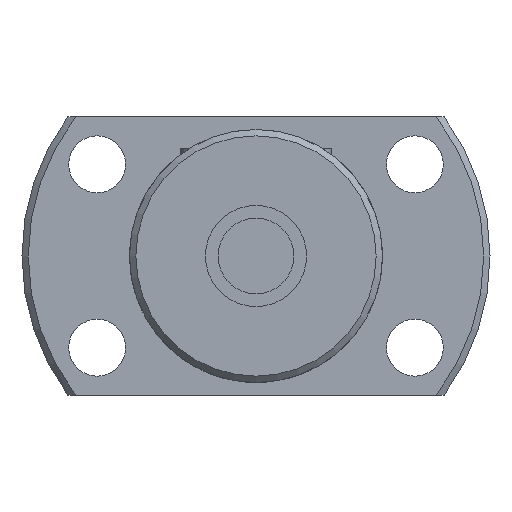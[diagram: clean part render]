
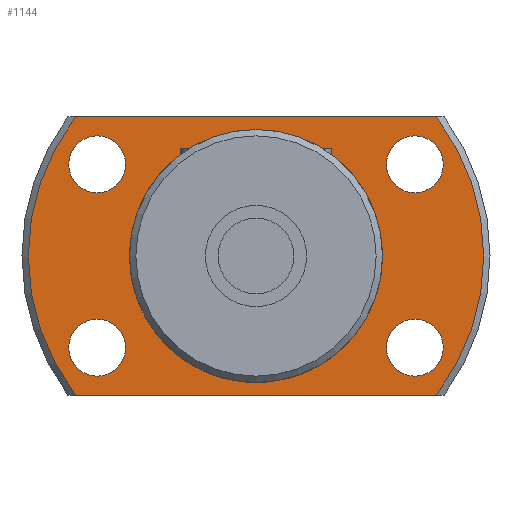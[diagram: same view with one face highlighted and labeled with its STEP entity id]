
A CAD part, left-side view. The second image highlights one B-rep face of the part: STEP entity #1144.
In plain terms, the highlighted planar face has unit normal (-1, 0, 0) as drawn and (1, 0, 0) by its records, which use the part's own axes.
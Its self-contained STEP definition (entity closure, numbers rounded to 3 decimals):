
#123=LINE('',#1986,#191);
#124=LINE('',#1988,#192);
#191=VECTOR('',#1603,1000.);
#192=VECTOR('',#1604,1000.);
#372=ORIENTED_EDGE('',*,*,#622,.T.);
#373=ORIENTED_EDGE('',*,*,#604,.T.);
#374=ORIENTED_EDGE('',*,*,#623,.T.);
#375=ORIENTED_EDGE('',*,*,#624,.T.);
#376=ORIENTED_EDGE('',*,*,#625,.F.);
#377=ORIENTED_EDGE('',*,*,#626,.F.);
#378=ORIENTED_EDGE('',*,*,#627,.F.);
#379=ORIENTED_EDGE('',*,*,#628,.F.);
#380=ORIENTED_EDGE('',*,*,#597,.F.);
#597=EDGE_CURVE('',#731,#731,#813,.T.);
#604=EDGE_CURVE('',#735,#737,#816,.T.);
#622=EDGE_CURVE('',#753,#735,#123,.T.);
#623=EDGE_CURVE('',#737,#754,#124,.T.);
#624=EDGE_CURVE('',#754,#753,#828,.T.);
#625=EDGE_CURVE('',#755,#755,#829,.T.);
#626=EDGE_CURVE('',#756,#756,#830,.T.);
#627=EDGE_CURVE('',#757,#757,#831,.T.);
#628=EDGE_CURVE('',#758,#758,#832,.T.);
#731=VERTEX_POINT('',#1920);
#735=VERTEX_POINT('',#1932);
#737=VERTEX_POINT('',#1939);
#753=VERTEX_POINT('',#1987);
#754=VERTEX_POINT('',#1989);
#755=VERTEX_POINT('',#1992);
#756=VERTEX_POINT('',#1994);
#757=VERTEX_POINT('',#1996);
#758=VERTEX_POINT('',#1998);
#813=CIRCLE('',#1281,9.8);
#816=CIRCLE('',#1285,18.);
#828=CIRCLE('',#1304,18.);
#829=CIRCLE('',#1305,2.25);
#830=CIRCLE('',#1306,2.25);
#831=CIRCLE('',#1307,2.25);
#832=CIRCLE('',#1308,2.25);
#912=EDGE_LOOP('',(#372,#373,#374,#375));
#913=EDGE_LOOP('',(#376));
#914=EDGE_LOOP('',(#377));
#915=EDGE_LOOP('',(#378));
#916=EDGE_LOOP('',(#379));
#917=EDGE_LOOP('',(#380));
#1024=FACE_BOUND('',#912,.T.);
#1025=FACE_BOUND('',#913,.T.);
#1026=FACE_BOUND('',#914,.T.);
#1027=FACE_BOUND('',#915,.T.);
#1028=FACE_BOUND('',#916,.T.);
#1029=FACE_BOUND('',#917,.T.);
#1084=PLANE('',#1303);
#1144=ADVANCED_FACE('',(#1024,#1025,#1026,#1027,#1028,#1029),#1084,.T.);
#1281=AXIS2_PLACEMENT_3D('',#1919,#1551,#1552);
#1285=AXIS2_PLACEMENT_3D('',#1940,#1561,#1562);
#1303=AXIS2_PLACEMENT_3D('',#1985,#1601,#1602);
#1304=AXIS2_PLACEMENT_3D('',#1990,#1605,#1606);
#1305=AXIS2_PLACEMENT_3D('',#1991,#1607,#1608);
#1306=AXIS2_PLACEMENT_3D('',#1993,#1609,#1610);
#1307=AXIS2_PLACEMENT_3D('',#1995,#1611,#1612);
#1308=AXIS2_PLACEMENT_3D('',#1997,#1613,#1614);
#1551=DIRECTION('',(1.,0.,0.));
#1552=DIRECTION('',(0.,0.,-1.));
#1561=DIRECTION('',(1.,0.,0.));
#1562=DIRECTION('',(0.,0.,-1.));
#1601=DIRECTION('',(1.,0.,0.));
#1602=DIRECTION('',(0.,0.,-1.));
#1603=DIRECTION('',(0.,-1.,0.));
#1604=DIRECTION('',(0.,1.,0.));
#1605=DIRECTION('',(1.,0.,0.));
#1606=DIRECTION('',(0.,0.,-1.));
#1607=DIRECTION('',(1.,0.,0.));
#1608=DIRECTION('',(0.,0.,-1.));
#1609=DIRECTION('',(1.,0.,0.));
#1610=DIRECTION('',(0.,0.,-1.));
#1611=DIRECTION('',(1.,0.,0.));
#1612=DIRECTION('',(0.,0.,-1.));
#1613=DIRECTION('',(1.,0.,0.));
#1614=DIRECTION('',(0.,0.,-1.));
#1919=CARTESIAN_POINT('',(5.,0.,0.));
#1920=CARTESIAN_POINT('',(5.,0.,-9.8));
#1932=CARTESIAN_POINT('',(5.,-14.248,11.));
#1939=CARTESIAN_POINT('',(5.,-14.248,-11.));
#1940=CARTESIAN_POINT('',(5.,0.,0.));
#1985=CARTESIAN_POINT('',(5.,9.8,0.));
#1986=CARTESIAN_POINT('',(5.,18.5,11.));
#1987=CARTESIAN_POINT('',(5.,14.248,11.));
#1988=CARTESIAN_POINT('',(5.,-18.5,-11.));
#1989=CARTESIAN_POINT('',(5.,14.248,-11.));
#1990=CARTESIAN_POINT('',(5.,0.,0.));
#1991=CARTESIAN_POINT('',(5.,12.557,7.25));
#1992=CARTESIAN_POINT('',(5.,12.557,5.));
#1993=CARTESIAN_POINT('',(5.,-12.557,7.25));
#1994=CARTESIAN_POINT('',(5.,-12.557,5.));
#1995=CARTESIAN_POINT('',(5.,-12.557,-7.25));
#1996=CARTESIAN_POINT('',(5.,-12.557,-9.5));
#1997=CARTESIAN_POINT('',(5.,12.557,-7.25));
#1998=CARTESIAN_POINT('',(5.,12.557,-9.5));
